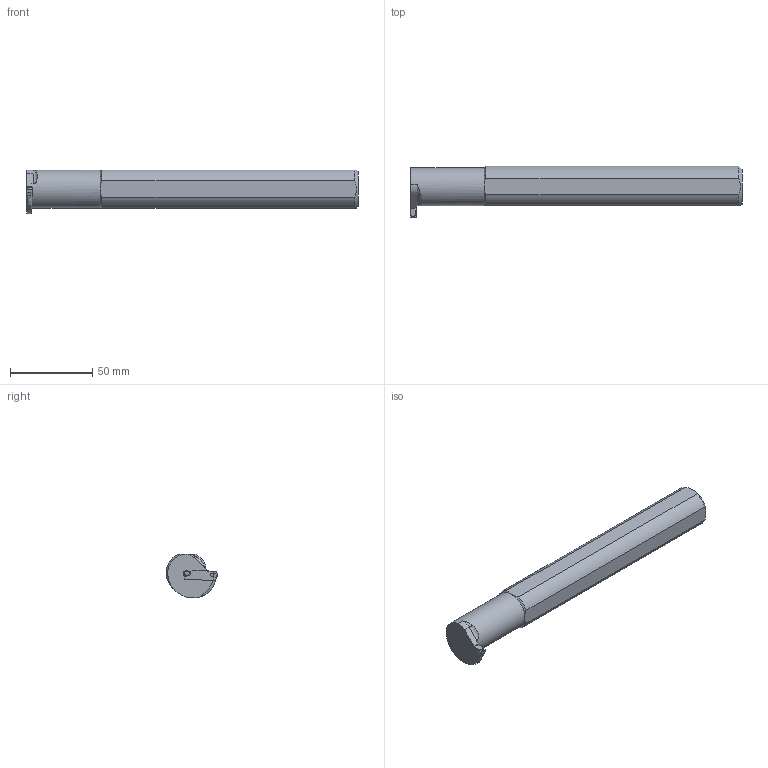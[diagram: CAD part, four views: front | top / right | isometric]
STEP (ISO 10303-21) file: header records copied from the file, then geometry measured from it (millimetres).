
FILE_DESCRIPTION(/* description */ (''),/* implementation_level */ '2;1');
FILE_NAME(/* name */ 'MGIVR3125-4-HAAS.stp',/* time_stamp */ '2021-10-18T09:12:20+09:00',/* author */ (''),/* organization */ (''),/* preprocessor_version */ 'ST-DEVELOPER v16',/* originating_system */ 'SIEMENS PLM Software NX 10.0',/* authorisation */ '');
FILE_SCHEMA (('AUTOMOTIVE_DESIGN { 1 0 10303 214 3 1 1 1 }'));
Length unit declared in the file: millimetre
Products named in the file (1): model2
Bounding box: 201.45 x 31.4 x 26.56 mm (x, y, z)
Volume: 92829.9 mm3; surface area: 16949.9 mm2
Topology: 2 solids, 2 shells, 72 faces, 201 edges, 131 vertices
Faces by surface type: plane 43, cylinder 19, cone 8, torus 2
Full cylindrical faces by diameter (mm): 1.6 x2, 23 x1
Entity records: 2337 total; most frequent: CARTESIAN_POINT 500, ORIENTED_EDGE 374, DIRECTION 369, EDGE_CURVE 187, VERTEX_POINT 127, AXIS2_PLACEMENT_3D 126, LINE 117, VECTOR 117
